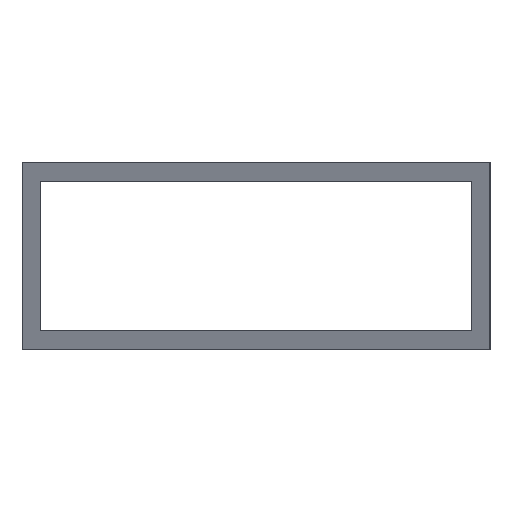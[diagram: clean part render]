
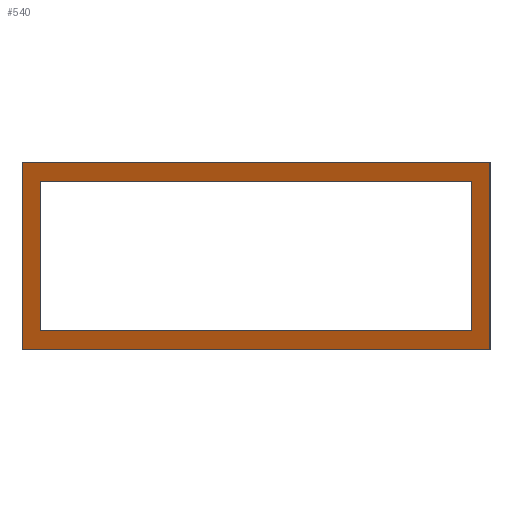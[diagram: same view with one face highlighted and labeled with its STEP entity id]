
A CAD part, left-side view. The second image highlights one B-rep face of the part: STEP entity #540.
In plain terms, the highlighted planar face has unit normal (-0.943, 0, -0.334).
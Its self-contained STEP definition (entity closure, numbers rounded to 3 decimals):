
#278=ORIENTED_EDGE('',*,*,#384,.T.);
#279=ORIENTED_EDGE('',*,*,#375,.T.);
#280=ORIENTED_EDGE('',*,*,#379,.T.);
#281=ORIENTED_EDGE('',*,*,#382,.T.);
#282=ORIENTED_EDGE('',*,*,#386,.T.);
#283=ORIENTED_EDGE('',*,*,#387,.T.);
#284=ORIENTED_EDGE('',*,*,#388,.T.);
#285=ORIENTED_EDGE('',*,*,#389,.T.);
#311=VECTOR('',#425,1.);
#315=VECTOR('',#431,1.);
#318=VECTOR('',#436,1.);
#320=VECTOR('',#440,1.);
#322=VECTOR('',#444,1.);
#323=VECTOR('',#445,1.);
#324=VECTOR('',#446,1.);
#325=VECTOR('',#447,1.);
#335=LINE('',#471,#311);
#339=LINE('',#479,#315);
#342=LINE('',#485,#318);
#344=LINE('',#488,#320);
#346=LINE('',#493,#322);
#347=LINE('',#495,#323);
#348=LINE('',#497,#324);
#349=LINE('',#498,#325);
#359=VERTEX_POINT('',#468);
#360=VERTEX_POINT('',#470);
#363=VERTEX_POINT('',#477);
#365=VERTEX_POINT('',#483);
#366=VERTEX_POINT('',#491);
#367=VERTEX_POINT('',#492);
#368=VERTEX_POINT('',#494);
#369=VERTEX_POINT('',#496);
#375=EDGE_CURVE('',#360,#359,#335,.T.);
#379=EDGE_CURVE('',#359,#363,#339,.T.);
#382=EDGE_CURVE('',#363,#365,#342,.T.);
#384=EDGE_CURVE('',#365,#360,#344,.T.);
#386=EDGE_CURVE('',#366,#367,#346,.T.);
#387=EDGE_CURVE('',#367,#368,#347,.T.);
#388=EDGE_CURVE('',#368,#369,#348,.T.);
#389=EDGE_CURVE('',#369,#366,#349,.T.);
#402=EDGE_LOOP('',(#278,#279,#280,#281));
#403=EDGE_LOOP('',(#282,#283,#284,#285));
#414=FACE_BOUND('',#402,.T.);
#415=FACE_BOUND('',#403,.T.);
#425=DIRECTION('',(-7.082,0.,20.));
#431=DIRECTION('',(0.,50.,0.));
#436=DIRECTION('',(7.082,0.,-20.));
#440=DIRECTION('',(0.,-50.,0.));
#442=DIRECTION('',(-0.943,0.,-0.334));
#443=DIRECTION('',(0.,0.943,0.));
#444=DIRECTION('',(5.666,0.,-16.));
#445=DIRECTION('',(0.,46.,0.));
#446=DIRECTION('',(-5.666,0.,16.));
#447=DIRECTION('',(0.,-46.,0.));
#468=CARTESIAN_POINT('',(217.617,-25.,20.));
#470=CARTESIAN_POINT('',(224.699,-25.,0.));
#471=CARTESIAN_POINT('',(224.699,-25.,0.));
#477=CARTESIAN_POINT('',(217.617,25.,20.));
#479=CARTESIAN_POINT('',(217.617,-25.,20.));
#483=CARTESIAN_POINT('',(224.699,25.,0.));
#485=CARTESIAN_POINT('',(217.617,25.,20.));
#488=CARTESIAN_POINT('',(224.699,25.,0.));
#490=CARTESIAN_POINT('',(224.699,25.,0.));
#491=CARTESIAN_POINT('',(218.325,-23.,18.));
#492=CARTESIAN_POINT('',(223.991,-23.,2.));
#493=CARTESIAN_POINT('',(218.325,-23.,18.));
#494=CARTESIAN_POINT('',(223.991,23.,2.));
#495=CARTESIAN_POINT('',(223.991,-23.,2.));
#496=CARTESIAN_POINT('',(218.325,23.,18.));
#497=CARTESIAN_POINT('',(223.991,23.,2.));
#498=CARTESIAN_POINT('',(218.325,23.,18.));
#520=AXIS2_PLACEMENT_3D('',#490,#442,#443);
#530=PLANE('',#520);
#540=ADVANCED_FACE('',(#414,#415),#530,.T.);
